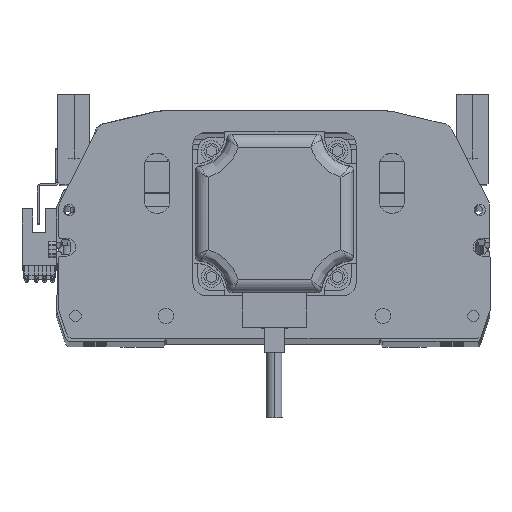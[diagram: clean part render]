
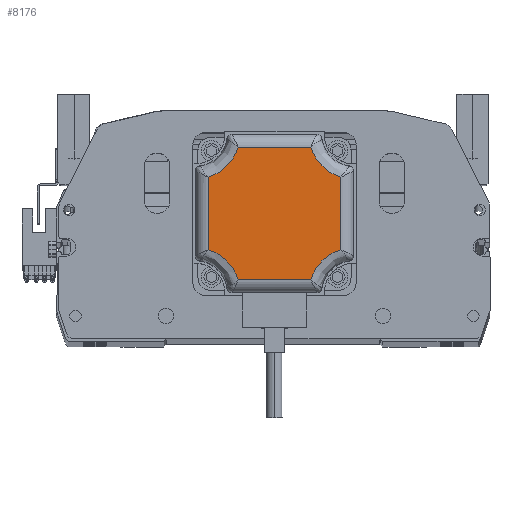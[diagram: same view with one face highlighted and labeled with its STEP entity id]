
A CAD part, top view. The second image highlights one B-rep face of the part: STEP entity #8176.
In plain terms, the highlighted planar face has unit normal (0, 0, 1) as drawn and (0, 0, -1) by its records, which use the part's own axes.
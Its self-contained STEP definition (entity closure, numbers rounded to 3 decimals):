
#192 = DIRECTION ( 'NONE',  ( 0., 0., 1. ) ) ;
#592 = VECTOR ( 'NONE', #40994, 1000. ) ;
#1205 = CARTESIAN_POINT ( 'NONE',  ( 15.5, 26., -116.5 ) ) ;
#1553 = VERTEX_POINT ( 'NONE', #43027 ) ;
#7004 =( BOUNDED_CURVE ( )  B_SPLINE_CURVE ( 3, ( #47413, #8471, #35937, #32174 ),
 .UNSPECIFIED., .F., .F. ) 
 B_SPLINE_CURVE_WITH_KNOTS ( ( 4, 4 ),
 ( 0., 1. ),
 .UNSPECIFIED. ) 
 CURVE ( )  GEOMETRIC_REPRESENTATION_ITEM ( )  RATIONAL_B_SPLINE_CURVE ( ( 1., 0.92, 0.92, 1. ) ) 
 REPRESENTATION_ITEM ( '' )  );
#7093 = CARTESIAN_POINT ( 'NONE',  ( -15.953, -20.219, -116.5 ) ) ;
#7718 = VERTEX_POINT ( 'NONE', #26177 ) ;
#7965 = CARTESIAN_POINT ( 'NONE',  ( -15.5, -26., -116.5 ) ) ;
#7977 = EDGE_CURVE ( 'NONE', #1553, #24757, #43175, .T. ) ;
#8050 = VERTEX_POINT ( 'NONE', #45648 ) ;
#8176 = ADVANCED_FACE ( 'NONE', ( #13156 ), #22509, .F. ) ;
#8471 = CARTESIAN_POINT ( 'NONE',  ( 20.219, 15.953, -116.5 ) ) ;
#8501 = VECTOR ( 'NONE', #45654, 1000. ) ;
#8573 =( BOUNDED_CURVE ( )  B_SPLINE_CURVE ( 3, ( #25865, #38165, #14134, #14636 ),
 .UNSPECIFIED., .F., .T. ) 
 B_SPLINE_CURVE_WITH_KNOTS ( ( 4, 4 ),
 ( 0., 1. ),
 .UNSPECIFIED. ) 
 CURVE ( )  GEOMETRIC_REPRESENTATION_ITEM ( )  RATIONAL_B_SPLINE_CURVE ( ( 1., 0.92, 0.92, 1. ) ) 
 REPRESENTATION_ITEM ( '' )  );
#9366 = CARTESIAN_POINT ( 'NONE',  ( -14.229, 26., -116.5 ) ) ;
#9541 = ORIENTED_EDGE ( 'NONE', *, *, #16871, .F. ) ;
#11002 = CARTESIAN_POINT ( 'NONE',  ( -26., -14.229, -116.5 ) ) ;
#11832 = VECTOR ( 'NONE', #19090, 1000. ) ;
#12064 = VERTEX_POINT ( 'NONE', #30047 ) ;
#12706 = ORIENTED_EDGE ( 'NONE', *, *, #27450, .F. ) ;
#13156 = FACE_OUTER_BOUND ( 'NONE', #41229, .T. ) ;
#13832 = CARTESIAN_POINT ( 'NONE',  ( -26., 14.229, -116.5 ) ) ;
#14134 = CARTESIAN_POINT ( 'NONE',  ( 20.219, -15.953, -116.5 ) ) ;
#14242 = CARTESIAN_POINT ( 'NONE',  ( -26., 15.5, -116.5 ) ) ;
#14636 = CARTESIAN_POINT ( 'NONE',  ( 26., -14.229, -116.5 ) ) ;
#15094 = ORIENTED_EDGE ( 'NONE', *, *, #48927, .F. ) ;
#15222 = LINE ( 'NONE', #14242, #8501 ) ;
#15883 = LINE ( 'NONE', #1205, #592 ) ;
#15991 = EDGE_CURVE ( 'NONE', #40432, #12064, #25129, .T. ) ;
#16689 = CARTESIAN_POINT ( 'NONE',  ( 26., -15.5, -116.5 ) ) ;
#16871 = EDGE_CURVE ( 'NONE', #24757, #24934, #7004, .T. ) ;
#19090 = DIRECTION ( 'NONE',  ( 1., 0., 0. ) ) ;
#21093 = VECTOR ( 'NONE', #40382, 1000. ) ;
#21317 = ORIENTED_EDGE ( 'NONE', *, *, #34307, .F. ) ;
#22509 = PLANE ( 'NONE',  #34517 ) ;
#23691 = CARTESIAN_POINT ( 'NONE',  ( 0., 0., -116.5 ) ) ;
#24757 = VERTEX_POINT ( 'NONE', #48140 ) ;
#24791 = LINE ( 'NONE', #7965, #11832 ) ;
#24934 = VERTEX_POINT ( 'NONE', #25379 ) ;
#25129 =( BOUNDED_CURVE ( )  B_SPLINE_CURVE ( 3, ( #11002, #41757, #7093, #42256 ),
 .UNSPECIFIED., .F., .F. ) 
 B_SPLINE_CURVE_WITH_KNOTS ( ( 4, 4 ),
 ( 0., 1. ),
 .UNSPECIFIED. ) 
 CURVE ( )  GEOMETRIC_REPRESENTATION_ITEM ( )  RATIONAL_B_SPLINE_CURVE ( ( 1., 0.92, 0.92, 1. ) ) 
 REPRESENTATION_ITEM ( '' )  );
#25379 = CARTESIAN_POINT ( 'NONE',  ( 14.229, 26., -116.5 ) ) ;
#25865 = CARTESIAN_POINT ( 'NONE',  ( 14.229, -26., -116.5 ) ) ;
#26047 = CARTESIAN_POINT ( 'NONE',  ( -15.953, 20.219, -116.5 ) ) ;
#26177 = CARTESIAN_POINT ( 'NONE',  ( 14.229, -26., -116.5 ) ) ;
#26618 = ORIENTED_EDGE ( 'NONE', *, *, #26781, .F. ) ;
#26781 = EDGE_CURVE ( 'NONE', #24934, #49901, #15883, .T. ) ;
#27409 =( BOUNDED_CURVE ( )  B_SPLINE_CURVE ( 3, ( #33928, #26047, #48844, #13832 ),
 .UNSPECIFIED., .F., .F. ) 
 B_SPLINE_CURVE_WITH_KNOTS ( ( 4, 4 ),
 ( 0., 1. ),
 .UNSPECIFIED. ) 
 CURVE ( )  GEOMETRIC_REPRESENTATION_ITEM ( )  RATIONAL_B_SPLINE_CURVE ( ( 1., 0.92, 0.92, 1. ) ) 
 REPRESENTATION_ITEM ( '' )  );
#27450 = EDGE_CURVE ( 'NONE', #8050, #40432, #15222, .T. ) ;
#30047 = CARTESIAN_POINT ( 'NONE',  ( -14.229, -26., -116.5 ) ) ;
#31780 = EDGE_CURVE ( 'NONE', #12064, #7718, #24791, .T. ) ;
#32174 = CARTESIAN_POINT ( 'NONE',  ( 14.229, 26., -116.5 ) ) ;
#33503 = ORIENTED_EDGE ( 'NONE', *, *, #31780, .F. ) ;
#33928 = CARTESIAN_POINT ( 'NONE',  ( -14.229, 26., -116.5 ) ) ;
#34307 = EDGE_CURVE ( 'NONE', #49901, #8050, #27409, .T. ) ;
#34517 = AXIS2_PLACEMENT_3D ( 'NONE', #23691, #192, #50767 ) ;
#35937 = CARTESIAN_POINT ( 'NONE',  ( 15.953, 20.219, -116.5 ) ) ;
#36128 = CARTESIAN_POINT ( 'NONE',  ( -26., -14.229, -116.5 ) ) ;
#38165 = CARTESIAN_POINT ( 'NONE',  ( 15.953, -20.219, -116.5 ) ) ;
#40382 = DIRECTION ( 'NONE',  ( 0., 1., 0. ) ) ;
#40432 = VERTEX_POINT ( 'NONE', #36128 ) ;
#40994 = DIRECTION ( 'NONE',  ( -1., 0., 0. ) ) ;
#41229 = EDGE_LOOP ( 'NONE', ( #21317, #26618, #9541, #47697, #15094, #33503, #43941, #12706 ) ) ;
#41757 = CARTESIAN_POINT ( 'NONE',  ( -20.219, -15.953, -116.5 ) ) ;
#42256 = CARTESIAN_POINT ( 'NONE',  ( -14.229, -26., -116.5 ) ) ;
#43027 = CARTESIAN_POINT ( 'NONE',  ( 26., -14.229, -116.5 ) ) ;
#43175 = LINE ( 'NONE', #16689, #21093 ) ;
#43941 = ORIENTED_EDGE ( 'NONE', *, *, #15991, .F. ) ;
#45648 = CARTESIAN_POINT ( 'NONE',  ( -26., 14.229, -116.5 ) ) ;
#45654 = DIRECTION ( 'NONE',  ( 0., -1., 0. ) ) ;
#47413 = CARTESIAN_POINT ( 'NONE',  ( 26., 14.229, -116.5 ) ) ;
#47697 = ORIENTED_EDGE ( 'NONE', *, *, #7977, .F. ) ;
#48140 = CARTESIAN_POINT ( 'NONE',  ( 26., 14.229, -116.5 ) ) ;
#48844 = CARTESIAN_POINT ( 'NONE',  ( -20.219, 15.953, -116.5 ) ) ;
#48927 = EDGE_CURVE ( 'NONE', #7718, #1553, #8573, .T. ) ;
#49901 = VERTEX_POINT ( 'NONE', #9366 ) ;
#50767 = DIRECTION ( 'NONE',  ( 1., 0., 0. ) ) ;
